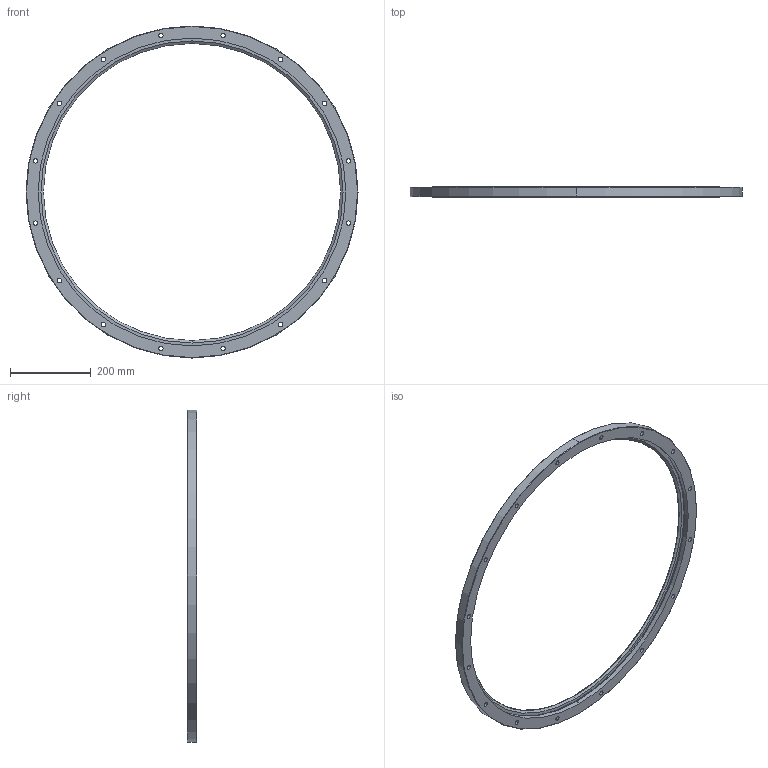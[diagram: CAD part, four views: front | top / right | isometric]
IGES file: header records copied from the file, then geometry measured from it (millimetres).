
Start section: 3D InterOp IGES (v. 2020 1.0.1), Spatial Corp. Copyright (c) 1999-2017.
Global section: file name: ril_820_r360.igs; native system: Spatial Corp.; preprocessor: 3D InterOp ACIS/IGES; author: TraceParts; organization: TraceParts S.A.; date: 20220624.063349; units: millimetre
Bounding box: 820 x 24 x 820 mm (x, y, z)
Surface area: 328279.3 mm2 (no closed solid volume)
Topology: 0 solids, 0 shells, 102 faces, 472 edges, 472 vertices
Faces by surface type: revolution 82, extrusion 20
